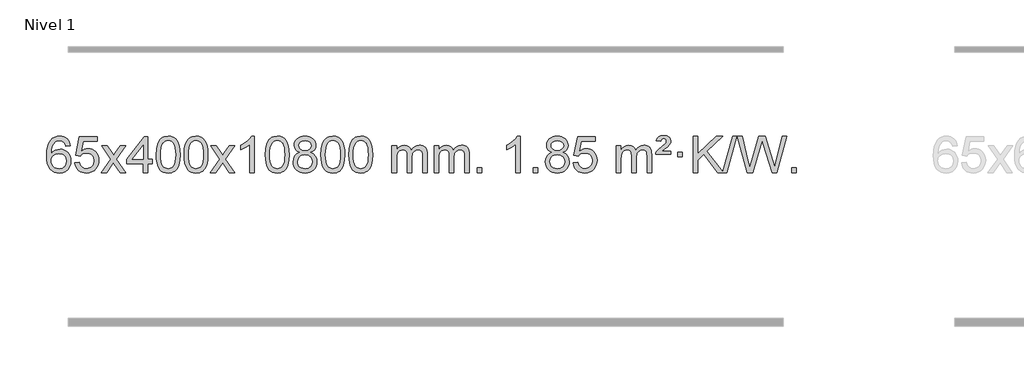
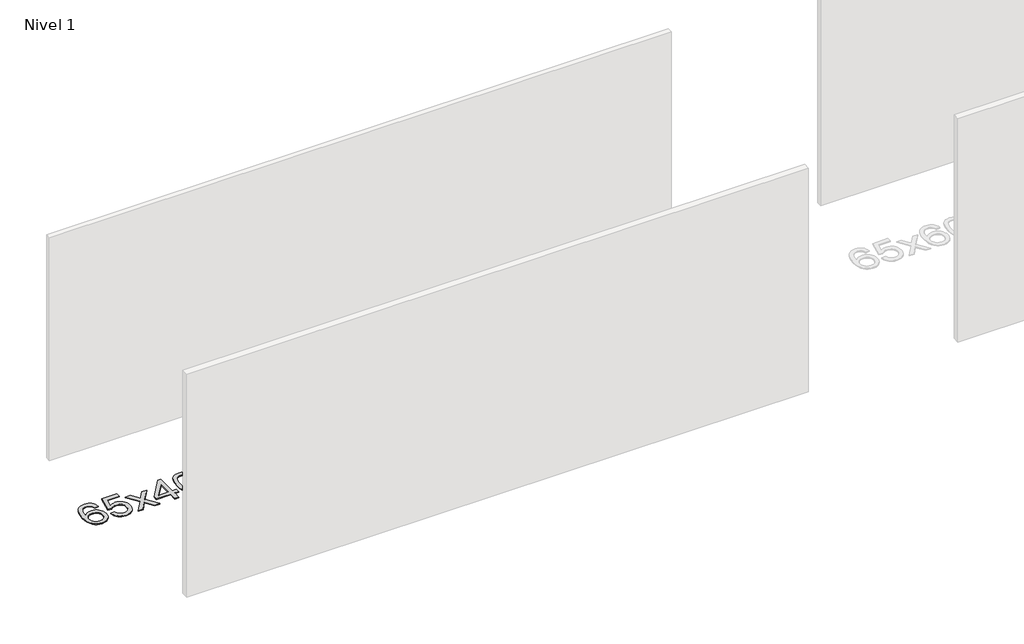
# One storey, part 4 of 12: 1 proxy.
"""IFC4 building model written with IfcOpenShell, lengths in millimetres."""

from ifc_helpers import new_model, si_unit, origin, origin_with_axes, place, context, project, spatial, polyline, outline, extrude, element, save

model = new_model("IFC4")

# Units and contexts
model_context = context("Model", 3, world=origin())
ifc_project = project(units=[si_unit("LENGTHUNIT", "METRE", prefix="MILLI")], contexts=[model_context])

# Site, building, storey
site = spatial("IfcSite", under=ifc_project)
building = spatial("IfcBuilding", under=site)
storey = spatial("IfcBuildingStorey", under=building, Name="Nivel 1", Elevation=0.0)

# Proxy
placement = place(None, origin())
element("IfcBuildingElementProxy", 1, Name="Texto de modelo 1", ObjectType="Texto de modelo 1", at=placement, inside=storey, context=model_context, shape_type="SweptSolid", body=[
    extrude(outline(polyline([(-11606.3978655, -3100.4890419), (-11656.6260206, -3106.7675613), (-11664.7194245, -3081.874213), (-11675.6577825, -3064.8780648), (-11698.4419407, -3049.2062918), (-11725.9840394, -3043.9823675), (-11749.3322834, -3047.0235253), (-11771.3071012, -3056.1469988), (-11790.1794476, -3075.3627017), (-11805.5937032, -3101.8134171), (-11816.0047637, -3139.227016), (-11819.8675246, -3191.3313693), (-11799.719854, -3167.8237098), (-11775.5745324, -3151.2567573), (-11748.7804604, -3141.434308), (-11720.6865387, -3138.1601582), (-11696.5534798, -3140.398107), (-11674.2843564, -3147.1119534), (-11653.8791684, -3158.3016975), (-11635.3379158, -3173.9673391), (-11619.9297916, -3193.1769106), (-11608.9239886, -3214.9984443), (-11602.3205068, -3239.4319401), (-11600.1193462, -3266.4773982), (-11604.26415, -3302.4439945), (-11616.6985614, -3335.786366), (-11636.3925109, -3364.0642287), (-11662.3159288, -3384.8372987), (-11693.2915928, -3397.602804), (-11728.1422805, -3401.8579724), (-11758.0848092, -3399.0375437), (-11785.1272015, -3390.5762579), (-11809.2694575, -3376.4741147), (-11830.511577, -3356.7311143), (-11847.8296219, -3330.5133908), (-11860.199654, -3296.9870783), (-11867.6216733, -3256.1521768), (-11870.0956797, -3208.0086864), (-11867.3488274, -3154.0342663), (-11859.1082708, -3107.9693092), (-11845.3740096, -3069.8138149), (-11826.146044, -3039.5677835), (-11805.305529, -3019.5243462), (-11781.1418132, -3005.2076052), (-11753.6548968, -2996.6175606), (-11722.8447797, -2993.7542124), (-11699.7111336, -2995.5261773), (-11678.7725167, -3000.8420722), (-11660.0289291, -3009.7018969), (-11643.4803707, -3022.1056515), (-11629.5744312, -3037.6364031), (-11618.7587006, -3055.8772186), (-11611.0331787, -3076.8280983), (-11606.3978655, -3100.4890419)]), holes=[polyline([(-11819.8675246, -3265.6925832), (-11816.9612568, -3287.9494439), (-11808.2424536, -3309.2007605), (-11794.7043961, -3327.472233), (-11777.340366, -3340.7895612), (-11756.383355, -3348.9197533), (-11732.0663551, -3351.6298173), (-11698.9201873, -3346.0134855), (-11685.0050509, -3338.9930708), (-11672.8618793, -3329.1644901), (-11663.0118389, -3316.9262824), (-11655.9760958, -3302.6769865), (-11650.3475012, -3268.1451299), (-11655.9025194, -3234.9989621), (-11662.846292, -3221.3781312), (-11672.5675737, -3209.725469), (-11684.7475335, -3200.3904634), (-11699.0673401, -3193.7226022), (-11734.1264943, -3188.3883133), (-11767.2236111, -3193.7226022), (-11794.9005999, -3209.725469), (-11805.8236294, -3221.2248471), (-11813.6257934, -3234.3858254), (-11818.3070918, -3249.2084042), (-11819.8675246, -3265.6925832)])]), origin_with_axes(), (0.0, 0.0, 1.0), 10.0),
    extrude(outline(polyline([(-11556.1697105, -3288.8446235), (-11505.9415554, -3282.5661041), (-11496.71998, -3312.7201649), (-11480.6312741, -3334.3148381), (-11457.749014, -3347.3010725), (-11428.1467761, -3351.6298173), (-11409.0169124, -3350.1245668), (-11392.1433915, -3345.6088153), (-11377.5262136, -3338.0825628), (-11365.1653786, -3327.5458094), (-11355.3367979, -3314.519721), (-11348.3163832, -3299.5254641), (-11342.7000514, -3263.6324441), (-11347.9607639, -3229.8363514), (-11354.5366546, -3215.9181493), (-11363.7429015, -3203.9865099), (-11375.6101615, -3194.4154467), (-11390.1690915, -3187.5789729), (-11427.3619612, -3182.1097939), (-11451.728012, -3184.2925604), (-11471.4587497, -3190.8408599), (-11487.2163618, -3200.8717757), (-11499.663036, -3213.5023908), (-11549.8911911, -3207.2238715), (-11505.9415554, -3000.0327318), (-11311.3074545, -3000.0327318), (-11311.3074545, -3050.2608869), (-11465.3273831, -3050.2608869), (-11486.8116916, -3160.919791), (-11469.0859108, -3148.2155994), (-11450.9309344, -3139.1411769), (-11432.3467623, -3133.6965234), (-11413.3333945, -3131.8816388), (-11388.8723075, -3134.1318504), (-11366.4039146, -3140.882485), (-11345.9282159, -3152.1335427), (-11327.4452113, -3167.8850234), (-11312.144386, -3187.1743027), (-11301.2152251, -3209.038756), (-11294.6577285, -3233.4783832), (-11292.4718963, -3260.4931844), (-11294.440065, -3286.5147042), (-11300.344571, -3310.7213394), (-11310.1854144, -3333.1130902), (-11323.9625951, -3353.6899565), (-11344.833767, -3374.7634634), (-11369.187555, -3389.8159684), (-11397.0239593, -3398.8474714), (-11428.3429799, -3401.8579724), (-11454.2633321, -3399.9235262), (-11477.6759554, -3394.1201877), (-11498.5808498, -3384.447957), (-11516.9780152, -3370.9068338), (-11532.2849719, -3354.1712688), (-11543.91924, -3334.915712), (-11551.8808195, -3313.1401636), (-11556.1697105, -3288.8446235)])), origin_with_axes(), (0.0, 0.0, 1.0), 10.0),
    extrude(outline(polyline([(-11267.3578188, -3395.579453), (-11160.0343781, -3247.2494325), (-11261.0792994, -3100.4890419), (-11200.6485503, -3100.4890419), (-11151.8919232, -3171.122385), (-11129.1322905, -3204.4770192), (-11109.4138155, -3177.2047007), (-11053.8881597, -3100.4890419), (-10993.4574106, -3100.4890419), (-11099.603629, -3247.2494325), (-10997.3814853, -3395.579453), (-11057.8122343, -3395.579453), (-11119.3221039, -3306.4048574), (-11130.6038184, -3290.1199477), (-11206.9270697, -3395.579453), (-11267.3578188, -3395.579453)])), origin_with_axes(), (0.0, 0.0, 1.0), 10.0),
    extrude(outline(polyline([(-10802.7473843, -3395.579453), (-10802.7473843, -3301.4016622), (-10984.8244465, -3301.4016622), (-10984.8244465, -3251.1735072), (-10790.1903456, -3000.0327318), (-10752.5192293, -3000.0327318), (-10752.5192293, -3251.1735072), (-10702.2910742, -3251.1735072), (-10702.2910742, -3301.4016622), (-10752.5192293, -3301.4016622), (-10752.5192293, -3395.579453), (-10802.7473843, -3395.579453)]), holes=[polyline([(-10802.7473843, -3251.1735072), (-10802.7473843, -3095.9763561), (-10923.0202713, -3251.1735072), (-10802.7473843, -3251.1735072)])]), origin_with_axes(), (0.0, 0.0, 1.0), 10.0),
    extrude(outline(polyline([(-10658.3414385, -3197.9041943), (-10654.6503558, -3133.5861588), (-10643.5771078, -3082.2911459), (-10625.2320589, -3043.2343407), (-10613.373996, -3028.0009605), (-10599.7255739, -3015.6309284), (-10584.2408076, -3006.0598651), (-10566.8737118, -2999.2233914), (-10526.4925314, -2993.7542124), (-10495.5413929, -2996.991574), (-10467.8276159, -3006.7036586), (-10444.6510502, -3022.5103217), (-10427.3115455, -3044.0314184), (-10414.2149465, -3071.0830078), (-10403.7670978, -3103.4811488), (-10396.9244927, -3144.6226186), (-10394.6436244, -3197.9041943), (-10398.2979188, -3261.8543477), (-10409.2608023, -3313.0267333), (-10427.4954865, -3352.1203266), (-10439.3259584, -3367.3996922), (-10452.9651833, -3379.8341036), (-10468.4683437, -3389.4695462), (-10485.8906219, -3396.3520052), (-10526.4925314, -3401.8579724), (-10554.1572575, -3399.4667394), (-10578.6827238, -3392.2930405), (-10600.0689305, -3380.3368757), (-10618.3158774, -3363.5982449), (-10635.8270604, -3333.3399508), (-10648.3350482, -3295.6381776), (-10655.8398409, -3250.4929255), (-10658.3414385, -3197.9041943)]), holes=[polyline([(-10608.1132834, -3197.8060924), (-10606.6417554, -3241.4706195), (-10602.2271715, -3276.8148822), (-10594.8695316, -3303.8388804), (-10584.5688357, -3322.5426142), (-10572.1098988, -3335.2682656), (-10558.2775358, -3344.3580165), (-10543.0717467, -3349.8118671), (-10526.4925314, -3351.6298173), (-10509.9133162, -3349.8057357), (-10494.707527, -3344.3334911), (-10480.875164, -3335.2130833), (-10468.4162271, -3322.4445124), (-10458.1155313, -3303.7101217), (-10450.7578914, -3276.6922549), (-10446.3433074, -3241.3909118), (-10444.8717794, -3197.8060924), (-10446.2942565, -3155.2973278), (-10450.5616876, -3120.5753989), (-10457.6740729, -3093.6403055), (-10467.6314122, -3074.4920476), (-10479.8818826, -3061.1440625), (-10493.8736612, -3051.6097875), (-10509.6067479, -3045.8892225), (-10527.0811426, -3043.9823675), (-10543.5745187, -3045.6623619), (-10558.5227905, -3050.7023452), (-10571.9259578, -3059.1023175), (-10583.7840208, -3070.8622786), (-10594.4280732, -3091.708925), (-10602.0309678, -3119.8151094), (-10606.5927045, -3155.1808319), (-10608.1132834, -3197.8060924)])]), origin_with_axes(), (0.0, 0.0, 1.0), 10.0),
    extrude(outline(polyline([(-10350.6939887, -3197.9041943), (-10347.002906, -3133.5861588), (-10335.9296579, -3082.2911459), (-10317.5846091, -3043.2343407), (-10305.7265461, -3028.0009605), (-10292.0781241, -3015.6309284), (-10276.5933578, -3006.0598651), (-10259.2262619, -2999.2233914), (-10218.8450816, -2993.7542124), (-10187.8939431, -2996.991574), (-10160.1801661, -3006.7036586), (-10137.0036004, -3022.5103217), (-10119.6640957, -3044.0314184), (-10106.5674967, -3071.0830078), (-10096.119648, -3103.4811488), (-10089.2770429, -3144.6226186), (-10086.9961745, -3197.9041943), (-10090.650469, -3261.8543477), (-10101.6133525, -3313.0267333), (-10119.8480367, -3352.1203266), (-10131.6785085, -3367.3996922), (-10145.3177335, -3379.8341036), (-10160.8208939, -3389.4695462), (-10178.2431721, -3396.3520052), (-10218.8450816, -3401.8579724), (-10246.5098076, -3399.4667394), (-10271.035274, -3392.2930405), (-10292.4214806, -3380.3368757), (-10310.6684276, -3363.5982449), (-10328.1796106, -3333.3399508), (-10340.6875984, -3295.6381776), (-10348.1923911, -3250.4929255), (-10350.6939887, -3197.9041943)]), holes=[polyline([(-10300.4658336, -3197.8060924), (-10298.9943056, -3241.4706195), (-10294.5797217, -3276.8148822), (-10287.2220818, -3303.8388804), (-10276.9213859, -3322.5426142), (-10264.462449, -3335.2682656), (-10250.630086, -3344.3580165), (-10235.4242968, -3349.8118671), (-10218.8450816, -3351.6298173), (-10202.2658663, -3349.8057357), (-10187.0600772, -3344.3334911), (-10173.2277142, -3335.2130833), (-10160.7687773, -3322.4445124), (-10150.4680814, -3303.7101217), (-10143.1104415, -3276.6922549), (-10138.6958576, -3241.3909118), (-10137.2243296, -3197.8060924), (-10138.6468066, -3155.2973278), (-10142.9142378, -3120.5753989), (-10150.026623, -3093.6403055), (-10159.9839624, -3074.4920476), (-10172.2344328, -3061.1440625), (-10186.2262114, -3051.6097875), (-10201.959298, -3045.8892225), (-10219.4336928, -3043.9823675), (-10235.9270689, -3045.6623619), (-10250.8753406, -3050.7023452), (-10264.278508, -3059.1023175), (-10276.136571, -3070.8622786), (-10286.7806234, -3091.708925), (-10294.3835179, -3119.8151094), (-10298.9452547, -3155.1808319), (-10300.4658336, -3197.8060924)])]), origin_with_axes(), (0.0, 0.0, 1.0), 10.0),
    extrude(outline(polyline([(-10061.882097, -3395.579453), (-9954.5586563, -3247.2494325), (-10055.6035776, -3100.4890419), (-9995.1728285, -3100.4890419), (-9946.4162014, -3171.122385), (-9923.6565687, -3204.4770192), (-9903.9380937, -3177.2047007), (-9848.4124379, -3100.4890419), (-9787.9816888, -3100.4890419), (-9894.1279072, -3247.2494325), (-9791.9057635, -3395.579453), (-9852.3365125, -3395.579453), (-9913.8463821, -3306.4048574), (-9925.1280966, -3290.1199477), (-10001.4513479, -3395.579453), (-10061.882097, -3395.579453)])), origin_with_axes(), (0.0, 0.0, 1.0), 10.0),
    extrude(outline(polyline([(-9572.157585, -3395.579453), (-9622.3857401, -3395.579453), (-9622.3857401, -3082.4382987), (-9643.3550138, -3099.3976587), (-9669.9651448, -3116.3324932), (-9722.8420502, -3141.6918254), (-9722.8420502, -3094.2105225), (-9683.3928376, -3072.7507395), (-9649.2166003, -3047.219729), (-9622.2753755, -3020.0700378), (-9604.5312006, -2993.7542124), (-9572.157585, -2993.7542124), (-9572.157585, -3395.579453)])), origin_with_axes(), (0.0, 0.0, 1.0), 10.0),
    extrude(outline(polyline([(-9452.8657167, -3197.9041943), (-9449.174634, -3133.5861588), (-9438.101386, -3082.2911459), (-9419.7563371, -3043.2343407), (-9407.8982742, -3028.0009605), (-9394.2498521, -3015.6309284), (-9378.7650858, -3006.0598651), (-9361.39799, -2999.2233914), (-9321.0168096, -2993.7542124), (-9290.0656711, -2996.991574), (-9262.3518941, -3006.7036586), (-9239.1753284, -3022.5103217), (-9221.8358237, -3044.0314184), (-9208.7392247, -3071.0830078), (-9198.291376, -3103.4811488), (-9191.4487709, -3144.6226186), (-9189.1679026, -3197.9041943), (-9192.822197, -3261.8543477), (-9203.7850805, -3313.0267333), (-9222.0197647, -3352.1203266), (-9233.8502366, -3367.3996922), (-9247.4894615, -3379.8341036), (-9262.9926219, -3389.4695462), (-9280.4149001, -3396.3520052), (-9321.0168096, -3401.8579724), (-9348.6815357, -3399.4667394), (-9373.207002, -3392.2930405), (-9394.5932087, -3380.3368757), (-9412.8401556, -3363.5982449), (-9430.3513386, -3333.3399508), (-9442.8593264, -3295.6381776), (-9450.3641191, -3250.4929255), (-9452.8657167, -3197.9041943)]), holes=[polyline([(-9402.6375616, -3197.8060924), (-9401.1660336, -3241.4706195), (-9396.7514497, -3276.8148822), (-9389.3938098, -3303.8388804), (-9379.0931139, -3322.5426142), (-9366.634177, -3335.2682656), (-9352.801814, -3344.3580165), (-9337.5960249, -3349.8118671), (-9321.0168096, -3351.6298173), (-9304.4375944, -3349.8057357), (-9289.2318053, -3344.3334911), (-9275.3994422, -3335.2130833), (-9262.9405053, -3322.4445124), (-9252.6398095, -3303.7101217), (-9245.2821696, -3276.6922549), (-9240.8675856, -3241.3909118), (-9239.3960576, -3197.8060924), (-9240.8185347, -3155.2973278), (-9245.0859658, -3120.5753989), (-9252.1983511, -3093.6403055), (-9262.1556904, -3074.4920476), (-9274.4061608, -3061.1440625), (-9288.3979394, -3051.6097875), (-9304.1310261, -3045.8892225), (-9321.6054208, -3043.9823675), (-9338.0987969, -3045.6623619), (-9353.0470687, -3050.7023452), (-9366.450236, -3059.1023175), (-9378.308299, -3070.8622786), (-9388.9523514, -3091.708925), (-9396.555246, -3119.8151094), (-9401.1169827, -3155.1808319), (-9402.6375616, -3197.8060924)])]), origin_with_axes(), (0.0, 0.0, 1.0), 10.0),
    extrude(outline(polyline([(-9072.0342753, -3174.2616447), (-9098.9264491, -3161.0178929), (-9117.7987955, -3143.0652515), (-9128.94562, -3120.7716026), (-9132.6612281, -3094.5048281), (-9130.6378771, -3074.0199324), (-9124.5678242, -3055.2395565), (-9114.4510693, -3038.1637006), (-9100.2876125, -3022.7923645), (-9082.7580355, -3010.088173), (-9062.5429198, -3001.0137504), (-9039.6422656, -2995.5690969), (-9014.0560729, -2993.7542124), (-8988.3472528, -2995.6120165), (-8965.2749203, -3001.1854287), (-8944.8390755, -3010.4744491), (-8927.0397183, -3023.4790776), (-8912.6187441, -3039.1508506), (-8902.3180482, -3056.4413044), (-8896.1376307, -3075.3504389), (-8894.0774915, -3095.8782543), (-8897.7440487, -3121.2989001), (-8908.7437204, -3143.2124043), (-8927.1991338, -3161.0546811), (-8953.2329163, -3174.2616447), (-8922.318566, -3190.1909351), (-8899.8164506, -3213.6495436), (-8886.0944522, -3243.5092989), (-8881.5204527, -3278.6420295), (-8883.7890584, -3303.6947933), (-8890.5948753, -3326.6628926), (-8901.9379035, -3347.5463272), (-8917.8181429, -3366.3450971), (-8937.4017278, -3381.88198), (-8959.8547922, -3392.9797536), (-8985.1773362, -3399.6384177), (-9013.3693598, -3401.8579724), (-9041.5613834, -3399.6292206), (-9066.8839274, -3392.9429654), (-9089.3369918, -3381.7992066), (-9108.9205767, -3366.1979443), (-9124.8008161, -3347.26735), (-9136.1438443, -3326.135595), (-9142.9496612, -3302.8026795), (-9145.2182669, -3277.2686033), (-9140.4603264, -3240.7747094), (-9126.186505, -3210.7555386), (-9103.1325666, -3188.2411605), (-9072.0342753, -3174.2616447)]), holes=[polyline([(-9094.9901118, -3275.5027698), (-9092.8931844, -3294.7184726), (-9086.6024023, -3313.3210389), (-9074.989594, -3329.5446349), (-9056.926588, -3341.623427), (-9035.2951267, -3349.1282197), (-9012.9769523, -3351.6298173), (-8978.7884523, -3346.3691048), (-8964.8947756, -3339.7932141), (-8953.1348145, -3330.5869672), (-8937.0951595, -3306.6869002), (-8931.7486078, -3277.0723996), (-8937.2668377, -3246.9551269), (-8953.8215275, -3222.5277625), (-8965.9003197, -3213.0854579), (-8980.0637765, -3206.3409547), (-9014.6446841, -3200.9453521), (-9048.3549375, -3206.2673783), (-9062.0922644, -3212.919911), (-9073.7510579, -3222.2334569), (-9089.6803483, -3246.1948375), (-9094.9901118, -3275.5027698)]), polyline([(-9082.433073, -3095.9763561), (-9077.9817009, -3117.902123), (-9064.6275845, -3135.413306), (-9042.7631312, -3146.8912243), (-9012.7807486, -3150.717197), (-8983.4973418, -3146.9157497), (-8961.9639823, -3135.5114079), (-8948.7202305, -3118.5888361), (-8944.3056466, -3098.232699), (-8948.8673833, -3077.1040098), (-8962.5525935, -3059.629615), (-8984.3802586, -3047.8941794), (-9013.3693598, -3043.9823675), (-9042.542402, -3047.8083402), (-9064.3332789, -3059.2862585), (-9077.9081245, -3076.1107284), (-9082.433073, -3095.9763561)])]), origin_with_axes(), (0.0, 0.0, 1.0), 10.0),
    extrude(outline(polyline([(-8837.570817, -3197.9041943), (-8833.8797344, -3133.5861588), (-8822.8064863, -3082.2911459), (-8804.4614375, -3043.2343407), (-8792.6033745, -3028.0009605), (-8778.9549525, -3015.6309284), (-8763.4701862, -3006.0598651), (-8746.1030903, -2999.2233914), (-8705.72191, -2993.7542124), (-8674.7707714, -2996.991574), (-8647.0569945, -3006.7036586), (-8623.8804288, -3022.5103217), (-8606.5409241, -3044.0314184), (-8593.444325, -3071.0830078), (-8582.9964764, -3103.4811488), (-8576.1538713, -3144.6226186), (-8573.8730029, -3197.9041943), (-8577.5272974, -3261.8543477), (-8588.4901808, -3313.0267333), (-8606.7248651, -3352.1203266), (-8618.5553369, -3367.3996922), (-8632.1945619, -3379.8341036), (-8647.6977223, -3389.4695462), (-8665.1200004, -3396.3520052), (-8705.72191, -3401.8579724), (-8733.386636, -3399.4667394), (-8757.9121024, -3392.2930405), (-8779.298309, -3380.3368757), (-8797.545256, -3363.5982449), (-8815.0564389, -3333.3399508), (-8827.5644268, -3295.6381776), (-8835.0692195, -3250.4929255), (-8837.570817, -3197.9041943)]), holes=[polyline([(-8787.342662, -3197.8060924), (-8785.871134, -3241.4706195), (-8781.45655, -3276.8148822), (-8774.0989101, -3303.8388804), (-8763.7982143, -3322.5426142), (-8751.3392774, -3335.2682656), (-8737.5069144, -3344.3580165), (-8722.3011252, -3349.8118671), (-8705.72191, -3351.6298173), (-8689.1426947, -3349.8057357), (-8673.9369056, -3344.3334911), (-8660.1045426, -3335.2130833), (-8647.6456057, -3322.4445124), (-8637.3449098, -3303.7101217), (-8629.9872699, -3276.6922549), (-8625.572686, -3241.3909118), (-8624.101158, -3197.8060924), (-8625.523635, -3155.2973278), (-8629.7910662, -3120.5753989), (-8636.9034514, -3093.6403055), (-8646.8607907, -3074.4920476), (-8659.1112612, -3061.1440625), (-8673.1030397, -3051.6097875), (-8688.8361264, -3045.8892225), (-8706.3105212, -3043.9823675), (-8722.8038973, -3045.6623619), (-8737.752169, -3050.7023452), (-8751.1553364, -3059.1023175), (-8763.0133993, -3070.8622786), (-8773.6574517, -3091.708925), (-8781.2603463, -3119.8151094), (-8785.8220831, -3155.1808319), (-8787.342662, -3197.8060924)])]), origin_with_axes(), (0.0, 0.0, 1.0), 10.0),
    extrude(outline(polyline([(-8529.9233672, -3197.9041943), (-8526.2322845, -3133.5861588), (-8515.1590365, -3082.2911459), (-8496.8139876, -3043.2343407), (-8484.9559247, -3028.0009605), (-8471.3075026, -3015.6309284), (-8455.8227363, -3006.0598651), (-8438.4556405, -2999.2233914), (-8398.0744601, -2993.7542124), (-8367.1233216, -2996.991574), (-8339.4095446, -3006.7036586), (-8316.2329789, -3022.5103217), (-8298.8934742, -3044.0314184), (-8285.7968752, -3071.0830078), (-8275.3490265, -3103.4811488), (-8268.5064214, -3144.6226186), (-8266.2255531, -3197.9041943), (-8269.8798475, -3261.8543477), (-8280.842731, -3313.0267333), (-8299.0774152, -3352.1203266), (-8310.9078871, -3367.3996922), (-8324.547112, -3379.8341036), (-8340.0502724, -3389.4695462), (-8357.4725506, -3396.3520052), (-8398.0744601, -3401.8579724), (-8425.7391862, -3399.4667394), (-8450.2646525, -3392.2930405), (-8471.6508592, -3380.3368757), (-8489.8978061, -3363.5982449), (-8507.4089891, -3333.3399508), (-8519.9169769, -3295.6381776), (-8527.4217696, -3250.4929255), (-8529.9233672, -3197.9041943)]), holes=[polyline([(-8479.6952121, -3197.8060924), (-8478.2236842, -3241.4706195), (-8473.8091002, -3276.8148822), (-8466.4514603, -3303.8388804), (-8456.1507644, -3322.5426142), (-8443.6918275, -3335.2682656), (-8429.8594645, -3344.3580165), (-8414.6536754, -3349.8118671), (-8398.0744601, -3351.6298173), (-8381.4952449, -3349.8057357), (-8366.2894558, -3344.3334911), (-8352.4570927, -3335.2130833), (-8339.9981558, -3322.4445124), (-8329.69746, -3303.7101217), (-8322.3398201, -3276.6922549), (-8317.9252361, -3241.3909118), (-8316.4537081, -3197.8060924), (-8317.8761852, -3155.2973278), (-8322.1436163, -3120.5753989), (-8329.2560016, -3093.6403055), (-8339.2133409, -3074.4920476), (-8351.4638113, -3061.1440625), (-8365.4555899, -3051.6097875), (-8381.1886766, -3045.8892225), (-8398.6630713, -3043.9823675), (-8415.1564474, -3045.6623619), (-8430.1047192, -3050.7023452), (-8443.5078865, -3059.1023175), (-8455.3659495, -3070.8622786), (-8466.0100019, -3091.708925), (-8473.6128965, -3119.8151094), (-8478.1746332, -3155.1808319), (-8479.6952121, -3197.8060924)])]), origin_with_axes(), (0.0, 0.0, 1.0), 10.0),
    extrude(outline(polyline([(-8052.755894, -3395.579453), (-8052.755894, -3100.4890419), (-8002.5277389, -3100.4890419), (-8002.5277389, -3149.0494653), (-7987.4200517, -3126.7435537), (-7967.9958823, -3109.2691589), (-7944.9174185, -3097.9751816), (-7918.8468478, -3094.2105225), (-7890.9123416, -3098.048758), (-7868.5205908, -3109.5634645), (-7851.7942228, -3127.9943524), (-7840.8558648, -3152.5811324), (-7822.5476041, -3127.0439906), (-7801.6641696, -3108.803175), (-7778.205561, -3097.8586857), (-7752.1717785, -3094.2105225), (-7732.0639617, -3095.7280358), (-7714.414823, -3100.2805755), (-7699.2243623, -3107.8681416), (-7686.4925796, -3118.4907342), (-7676.4279413, -3132.2709806), (-7669.238914, -3149.3315082), (-7664.9254976, -3169.6723168), (-7663.4876922, -3193.2934066), (-7663.4876922, -3395.579453), (-7713.7158472, -3395.579453), (-7713.7158472, -3214.875817), (-7714.8808069, -3189.8230531), (-7718.3756858, -3172.9372695), (-7724.9239854, -3161.3735121), (-7735.2492067, -3152.2868268), (-7748.5297467, -3146.4007149), (-7763.9440023, -3144.4386776), (-7791.1550072, -3149.4663982), (-7813.3382915, -3164.54956), (-7821.9436645, -3176.1194488), (-7828.0903595, -3190.7182326), (-7833.0077155, -3229.0024856), (-7833.0077155, -3395.579453), (-7883.2358706, -3395.579453), (-7883.2358706, -3209.2840106), (-7886.1421384, -3180.8835206), (-7894.8609417, -3160.6254854), (-7910.2016209, -3148.4853796), (-7932.9735164, -3144.4386776), (-7952.3241093, -3147.1364789), (-7970.1541233, -3155.2298828), (-7984.8694032, -3168.5226856), (-7994.8757934, -3186.8186835), (-8000.6147525, -3212.2025411), (-8002.5277389, -3246.7589232), (-8002.5277389, -3395.579453), (-8052.755894, -3395.579453)])), origin_with_axes(), (0.0, 0.0, 1.0), 10.0),
    extrude(outline(polyline([(-7588.1454596, -3395.579453), (-7588.1454596, -3100.4890419), (-7537.9173045, -3100.4890419), (-7537.9173045, -3149.0494653), (-7522.8096172, -3126.7435537), (-7503.3854479, -3109.2691589), (-7480.306984, -3097.9751816), (-7454.2364133, -3094.2105225), (-7426.3019071, -3098.048758), (-7403.9101564, -3109.5634645), (-7387.1837883, -3127.9943524), (-7376.2454303, -3152.5811324), (-7357.9371697, -3127.0439906), (-7337.0537351, -3108.803175), (-7313.5951266, -3097.8586857), (-7287.561344, -3094.2105225), (-7267.4535273, -3095.7280358), (-7249.8043886, -3100.2805755), (-7234.6139279, -3107.8681416), (-7221.8821452, -3118.4907342), (-7211.8175069, -3132.2709806), (-7204.6284796, -3149.3315082), (-7200.3150632, -3169.6723168), (-7198.8772577, -3193.2934066), (-7198.8772577, -3395.579453), (-7249.1054128, -3395.579453), (-7249.1054128, -3214.875817), (-7250.2703724, -3189.8230531), (-7253.7652514, -3172.9372695), (-7260.3135509, -3161.3735121), (-7270.6387722, -3152.2868268), (-7283.9193123, -3146.4007149), (-7299.3335679, -3144.4386776), (-7326.5445728, -3149.4663982), (-7348.7278571, -3164.54956), (-7357.3332301, -3176.1194488), (-7363.4799251, -3190.7182326), (-7368.3972811, -3229.0024856), (-7368.3972811, -3395.579453), (-7418.6254362, -3395.579453), (-7418.6254362, -3209.2840106), (-7421.5317039, -3180.8835206), (-7430.2505072, -3160.6254854), (-7445.5911864, -3148.4853796), (-7468.3630819, -3144.4386776), (-7487.7136749, -3147.1364789), (-7505.5436889, -3155.2298828), (-7520.2589687, -3168.5226856), (-7530.265359, -3186.8186835), (-7536.0043181, -3212.2025411), (-7537.9173045, -3246.7589232), (-7537.9173045, -3395.579453), (-7588.1454596, -3395.579453)])), origin_with_axes(), (0.0, 0.0, 1.0), 10.0),
    extrude(outline(polyline([(-7110.9779863, -3395.579453), (-7110.9779863, -3345.3512979), (-7060.7498313, -3345.3512979), (-7060.7498313, -3395.579453), (-7110.9779863, -3395.579453)])), origin_with_axes(), (0.0, 0.0, 1.0), 10.0),
    extrude(outline(polyline([(-6633.8105131, -3395.579453), (-6684.0386682, -3395.579453), (-6684.0386682, -3082.4382987), (-6705.0079419, -3099.3976587), (-6731.6180729, -3116.3324932), (-6784.4949784, -3141.6918254), (-6784.4949784, -3094.2105225), (-6745.0457657, -3072.7507395), (-6710.8695284, -3047.219729), (-6683.9283036, -3020.0700378), (-6666.1841287, -2993.7542124), (-6633.8105131, -2993.7542124), (-6633.8105131, -3395.579453)])), origin_with_axes(), (0.0, 0.0, 1.0), 10.0),
    extrude(outline(polyline([(-6489.4045673, -3395.579453), (-6489.4045673, -3345.3512979), (-6439.1764122, -3345.3512979), (-6439.1764122, -3395.579453), (-6489.4045673, -3395.579453)])), origin_with_axes(), (0.0, 0.0, 1.0), 10.0),
    extrude(outline(polyline([(-6284.3716686, -3174.2616447), (-6311.2638425, -3161.0178929), (-6330.1361888, -3143.0652515), (-6341.2830133, -3120.7716026), (-6344.9986215, -3094.5048281), (-6342.9752705, -3074.0199324), (-6336.9052176, -3055.2395565), (-6326.7884627, -3038.1637006), (-6312.6250059, -3022.7923645), (-6295.0954288, -3010.088173), (-6274.8803132, -3001.0137504), (-6251.979659, -2995.5690969), (-6226.3934662, -2993.7542124), (-6200.6846461, -2995.6120165), (-6177.6123136, -3001.1854287), (-6157.1764688, -3010.4744491), (-6139.3771116, -3023.4790776), (-6124.9561374, -3039.1508506), (-6114.6554415, -3056.4413044), (-6108.475024, -3075.3504389), (-6106.4148848, -3095.8782543), (-6110.0814421, -3121.2989001), (-6121.0811137, -3143.2124043), (-6139.5365271, -3161.0546811), (-6165.5703097, -3174.2616447), (-6134.6559593, -3190.1909351), (-6112.153844, -3213.6495436), (-6098.4318456, -3243.5092989), (-6093.8578461, -3278.6420295), (-6096.1264517, -3303.6947933), (-6102.9322686, -3326.6628926), (-6114.2752968, -3347.5463272), (-6130.1555363, -3366.3450971), (-6149.7391211, -3381.88198), (-6172.1921856, -3392.9797536), (-6197.5147296, -3399.6384177), (-6225.7067531, -3401.8579724), (-6253.8987767, -3399.6292206), (-6279.2213207, -3392.9429654), (-6301.6743852, -3381.7992066), (-6321.25797, -3366.1979443), (-6337.1382095, -3347.26735), (-6348.4812377, -3326.135595), (-6355.2870546, -3302.8026795), (-6357.5556602, -3277.2686033), (-6352.7977197, -3240.7747094), (-6338.5238983, -3210.7555386), (-6315.46996, -3188.2411605), (-6284.3716686, -3174.2616447)]), holes=[polyline([(-6294.7704664, -3095.9763561), (-6290.3190942, -3117.902123), (-6276.9649778, -3135.413306), (-6255.1005246, -3146.8912243), (-6225.118142, -3150.717197), (-6195.8347351, -3146.9157497), (-6174.3013757, -3135.5114079), (-6161.0576239, -3118.5888361), (-6156.6430399, -3098.232699), (-6161.2047767, -3077.1040098), (-6174.8899869, -3059.629615), (-6196.7176519, -3047.8941794), (-6225.7067531, -3043.9823675), (-6254.8797954, -3047.8083402), (-6276.6706722, -3059.2862585), (-6290.2455178, -3076.1107284), (-6294.7704664, -3095.9763561)]), polyline([(-6307.3275051, -3275.5027698), (-6305.2305778, -3294.7184726), (-6298.9397957, -3313.3210389), (-6287.3269873, -3329.5446349), (-6269.2639814, -3341.623427), (-6247.6325201, -3349.1282197), (-6225.3143457, -3351.6298173), (-6191.1258456, -3346.3691048), (-6177.2321689, -3339.7932141), (-6165.4722078, -3330.5869672), (-6149.4325528, -3306.6869002), (-6144.0860012, -3277.0723996), (-6149.6042311, -3246.9551269), (-6166.1589209, -3222.5277625), (-6178.237713, -3213.0854579), (-6192.4011699, -3206.3409547), (-6226.9820774, -3200.9453521), (-6260.6923309, -3206.2673783), (-6274.4296577, -3212.919911), (-6286.0884513, -3222.2334569), (-6302.0177417, -3246.1948375), (-6307.3275051, -3275.5027698)])]), origin_with_axes(), (0.0, 0.0, 1.0), 10.0),
    extrude(outline(polyline([(-6049.9082104, -3288.8446235), (-5999.6800553, -3282.5661041), (-5990.45848, -3312.7201649), (-5974.369774, -3334.3148381), (-5951.4875139, -3347.3010725), (-5921.8852761, -3351.6298173), (-5902.7554123, -3350.1245668), (-5885.8818915, -3345.6088153), (-5871.2647135, -3338.0825628), (-5858.9038785, -3327.5458094), (-5849.0752979, -3314.519721), (-5842.0548831, -3299.5254641), (-5836.4385513, -3263.6324441), (-5841.6992639, -3229.8363514), (-5848.2751545, -3215.9181493), (-5857.4814014, -3203.9865099), (-5869.3486615, -3194.4154467), (-5883.9075914, -3187.5789729), (-5921.1004611, -3182.1097939), (-5945.466512, -3184.2925604), (-5965.1972496, -3190.8408599), (-5980.9548618, -3200.8717757), (-5993.4015359, -3213.5023908), (-6043.629691, -3207.2238715), (-5999.6800553, -3000.0327318), (-5805.0459544, -3000.0327318), (-5805.0459544, -3050.2608869), (-5959.065883, -3050.2608869), (-5980.5501916, -3160.919791), (-5962.8244108, -3148.2155994), (-5944.6694343, -3139.1411769), (-5926.0852622, -3133.6965234), (-5907.0718944, -3131.8816388), (-5882.6108074, -3134.1318504), (-5860.1424145, -3140.882485), (-5839.6667158, -3152.1335427), (-5821.1837113, -3167.8850234), (-5805.8828859, -3187.1743027), (-5794.953725, -3209.038756), (-5788.3962284, -3233.4783832), (-5786.2103962, -3260.4931844), (-5788.1785649, -3286.5147042), (-5794.0830709, -3310.7213394), (-5803.9239143, -3333.1130902), (-5817.701095, -3353.6899565), (-5838.5722669, -3374.7634634), (-5862.926055, -3389.8159684), (-5890.7624593, -3398.8474714), (-5922.0814798, -3401.8579724), (-5948.001832, -3399.9235262), (-5971.4144553, -3394.1201877), (-5992.3193497, -3384.447957), (-6010.7165152, -3370.9068338), (-6026.0234719, -3354.1712688), (-6037.6577399, -3334.915712), (-6045.6193195, -3313.1401636), (-6049.9082104, -3288.8446235)])), origin_with_axes(), (0.0, 0.0, 1.0), 10.0),
    extrude(outline(polyline([(-5572.7407372, -3395.579453), (-5572.7407372, -3100.4890419), (-5522.5125821, -3100.4890419), (-5522.5125821, -3149.0494653), (-5507.4048948, -3126.7435537), (-5487.9807255, -3109.2691589), (-5464.9022617, -3097.9751816), (-5438.8316909, -3094.2105225), (-5410.8971848, -3098.048758), (-5388.505434, -3109.5634645), (-5371.7790659, -3127.9943524), (-5360.840708, -3152.5811324), (-5342.5324473, -3127.0439906), (-5321.6490127, -3108.803175), (-5298.1904042, -3097.8586857), (-5272.1566217, -3094.2105225), (-5252.0488049, -3095.7280358), (-5234.3996662, -3100.2805755), (-5219.2092055, -3107.8681416), (-5206.4774228, -3118.4907342), (-5196.4127845, -3132.2709806), (-5189.2237572, -3149.3315082), (-5184.9103408, -3169.6723168), (-5183.4725353, -3193.2934066), (-5183.4725353, -3395.579453), (-5233.7006904, -3395.579453), (-5233.7006904, -3214.875817), (-5234.8656501, -3189.8230531), (-5238.360529, -3172.9372695), (-5244.9088285, -3161.3735121), (-5255.2340499, -3152.2868268), (-5268.5145899, -3146.4007149), (-5283.9288455, -3144.4386776), (-5311.1398504, -3149.4663982), (-5333.3231347, -3164.54956), (-5341.9285077, -3176.1194488), (-5348.0752027, -3190.7182326), (-5352.9925587, -3229.0024856), (-5352.9925587, -3395.579453), (-5403.2207138, -3395.579453), (-5403.2207138, -3209.2840106), (-5406.1269816, -3180.8835206), (-5414.8457848, -3160.6254854), (-5430.186464, -3148.4853796), (-5452.9583595, -3144.4386776), (-5472.3089525, -3147.1364789), (-5490.1389665, -3155.2298828), (-5504.8542463, -3168.5226856), (-5514.8606366, -3186.8186835), (-5520.5995957, -3212.2025411), (-5522.5125821, -3246.7589232), (-5522.5125821, -3395.579453), (-5572.7407372, -3395.579453)])), origin_with_axes(), (0.0, 0.0, 1.0), 10.0),
    extrude(outline(polyline([(-5139.5228997, -3194.6668327), (-5135.6969269, -3178.8479069), (-5127.3582683, -3162.9799302), (-5105.8494344, -3137.8413272), (-5073.8927517, -3110.1030247), (-5029.7469123, -3072.726214), (-5022.6100016, -3061.1992448), (-5020.2310314, -3049.3779701), (-5022.1194923, -3037.2869152), (-5027.784875, -3027.5012541), (-5037.1536031, -3021.026531), (-5050.1521003, -3018.8682899), (-5062.5865117, -3020.4869707), (-5071.4402051, -3025.343013), (-5077.8658773, -3034.8098431), (-5083.0162252, -3050.2608869), (-5133.2443803, -3043.9823675), (-5122.4041241, -3018.7701881), (-5105.775858, -3001.2099542), (-5082.0106811, -2990.9092583), (-5049.7596928, -2987.475693), (-5013.9770374, -2991.6082341), (-4989.2308419, -3004.0058573), (-4974.8098677, -3022.3386434), (-4970.0028763, -3044.2766731), (-4974.0986292, -3067.1834586), (-4986.3858878, -3088.8149199), (-5006.9137031, -3108.6314968), (-5043.3830716, -3136.6886303), (-5068.9876584, -3163.2742358), (-4970.0028763, -3163.2742358), (-4970.0028763, -3194.6668327), (-5139.5228997, -3194.6668327)])), origin_with_axes(), (0.0, 0.0, 1.0), 10.0),
    extrude(outline(polyline([(-4894.6606437, -3219.7809102), (-4894.6606437, -3169.5527552), (-4844.4324886, -3169.5527552), (-4844.4324886, -3219.7809102), (-4894.6606437, -3219.7809102)])), origin_with_axes(), (0.0, 0.0, 1.0), 10.0),
    extrude(outline(polyline([(-4453.7908606, -3395.579453), (-4607.2221781, -3192.9009991), (-4674.9124652, -3257.4520265), (-4674.9124652, -3395.579453), (-4725.1406203, -3395.579453), (-4725.1406203, -2993.7542124), (-4674.9124652, -2993.7542124), (-4674.9124652, -3190.4484525), (-4468.8985479, -2993.7542124), (-4398.6576123, -2993.7542124), (-4571.611201, -3158.9577537), (-4396.9575911, -3389.5349332), (-4285.6442634, -2993.7542124), (-4240.3212016, -2993.7542124), (-4353.3345505, -3395.579453), (-4392.3790929, -3395.579453), (-4398.6576123, -3395.579453), (-4453.7908606, -3395.579453)])), origin_with_axes(), (0.0, 0.0, 1.0), 10.0),
    extrude(outline(polyline([(-4125.8363247, -3395.579453), (-4235.4161083, -2993.7542124), (-4183.6183234, -2993.7542124), (-4120.0483146, -3257.844434), (-4100.4279415, -3339.3670841), (-4079.4341424, -3267.2622131), (-3999.7754277, -2993.7542124), (-3925.1199081, -2993.7542124), (-3867.2398075, -3192.0180823), (-3842.4445611, -3265.5944814), (-3824.1730886, -3339.3670841), (-3805.1413268, -3260.1988788), (-3740.9827068, -2993.7542124), (-3689.1849219, -2993.7542124), (-3798.8628074, -3395.579453), (-3852.5245277, -3395.579453), (-3948.8605595, -3085.5775584), (-3962.3005151, -3042.3146358), (-3977.4082024, -3094.4067263), (-4065.2093719, -3395.579453), (-4125.8363247, -3395.579453)])), origin_with_axes(), (0.0, 0.0, 1.0), 10.0),
    extrude(outline(polyline([(-3632.6782474, -3395.579453), (-3632.6782474, -3345.3512979), (-3582.4500923, -3345.3512979), (-3582.4500923, -3395.579453), (-3632.6782474, -3395.579453)])), origin_with_axes(), (0.0, 0.0, 1.0), 10.0),
])

save(model, "model.ifc")
